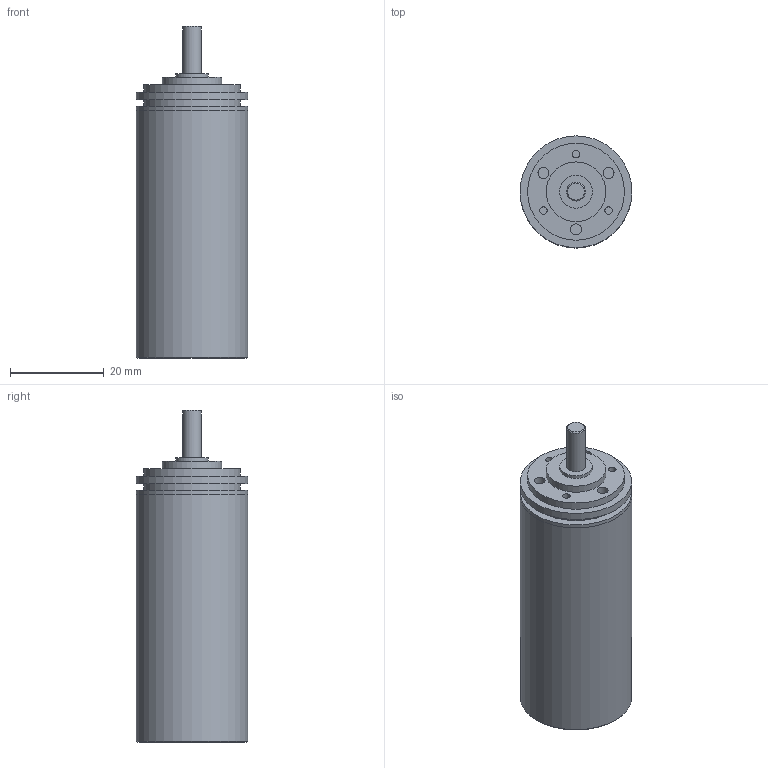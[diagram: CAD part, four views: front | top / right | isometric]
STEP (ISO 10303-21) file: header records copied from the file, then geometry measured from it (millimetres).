
FILE_DESCRIPTION(/* description */ (''),/* implementation_level */ '2;1');
FILE_NAME(/* name */ '22-2_7.stp',/* time_stamp */ '2016-08-26T11:16:44+02:00',/* author */ ('DR. FRITZ FAULHABER GmbH & Co. KG'),/* organization */ ('DR. FRITZ FAULHABER GmbH & Co. KG'),/* preprocessor_version */ 'ST-DEVELOPER v16',/* originating_system */ 'SIEMENS PLM Software NX 10.0',/* authorisation */ '');
FILE_SCHEMA (('AUTOMOTIVE_DESIGN { 1 0 10303 214 3 1 1 1 }'));
Length unit declared in the file: millimetre
Products named in the file (1): H00000857_A
Bounding box: 23.8 x 23.8 x 70.7 mm (x, y, z)
Volume: 17992.7 mm3; surface area: 7312.7 mm2
Topology: 1 solids, 1 shells, 42 faces, 65 edges, 43 vertices
Faces by surface type: plane 20, cylinder 19, cone 3
Full cylindrical faces by diameter (mm): 1.6 x3, 2.329 x3, 3.5 x1, 4 x1, 4.5 x1, 7 x2, 12.7 x1, 20.63 x2, 22 x1, 23.79 x1, 23.8 x3
Entity records: 858 total; most frequent: DIRECTION 168, CARTESIAN_POINT 125, AXIS2_PLACEMENT_3D 84, EDGE_LOOP 82, ORIENTED_EDGE 82, FACE_BOUND 74, ADVANCED_FACE 42, VERTEX_POINT 41
